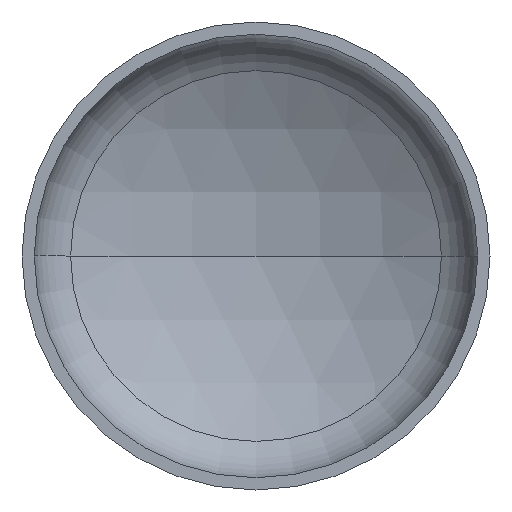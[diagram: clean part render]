
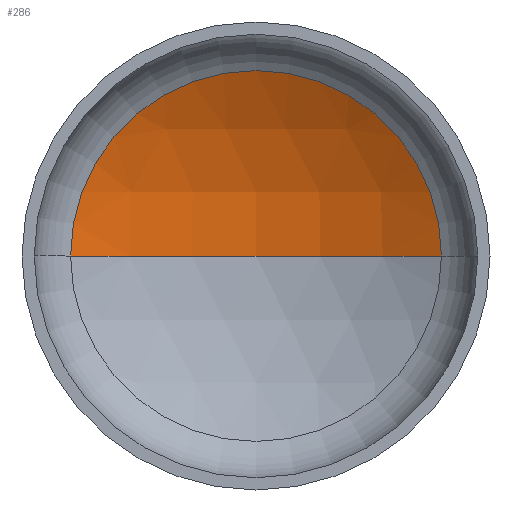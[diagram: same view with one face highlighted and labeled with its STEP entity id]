
A CAD part, front view. The second image highlights one B-rep face of the part: STEP entity #286.
In plain terms, the highlighted spherical face has radius 2080 mm.
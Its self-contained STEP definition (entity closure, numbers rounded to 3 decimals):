
#4 = VERTEX_POINT ( 'NONE', #274 ) ;
#6 = CARTESIAN_POINT ( 'NONE',  ( -1030.095, 467.503, 0. ) ) ;
#10 = EDGE_LOOP ( 'NONE', ( #53, #27, #40 ) ) ;
#13 = AXIS2_PLACEMENT_3D ( 'NONE', #131, #139, #110 ) ;
#21 = AXIS2_PLACEMENT_3D ( 'NONE', #195, #393, #114 ) ;
#27 = ORIENTED_EDGE ( 'NONE', *, *, #155, .T. ) ;
#40 = ORIENTED_EDGE ( 'NONE', *, *, #120, .T. ) ;
#49 = AXIS2_PLACEMENT_3D ( 'NONE', #210, #225, #220 ) ;
#50 = AXIS2_PLACEMENT_3D ( 'NONE', #203, #326, #180 ) ;
#53 = ORIENTED_EDGE ( 'NONE', *, *, #366, .F. ) ;
#104 = CIRCLE ( 'NONE', #13, 2080. ) ;
#110 = DIRECTION ( 'NONE',  ( 1., 0., 0. ) ) ;
#114 = DIRECTION ( 'NONE',  ( -1., 0., 0. ) ) ;
#120 = EDGE_CURVE ( 'NONE', #4, #148, #237, .T. ) ;
#131 = CARTESIAN_POINT ( 'NONE',  ( 0., -1339.512, 0. ) ) ;
#139 = DIRECTION ( 'NONE',  ( 0., 0., 1. ) ) ;
#143 = VERTEX_POINT ( 'NONE', #205 ) ;
#148 = VERTEX_POINT ( 'NONE', #6 ) ;
#155 = EDGE_CURVE ( 'NONE', #143, #4, #162, .T. ) ;
#162 = CIRCLE ( 'NONE', #49, 2080. ) ;
#180 = DIRECTION ( 'NONE',  ( 1., 0., 0. ) ) ;
#195 = CARTESIAN_POINT ( 'NONE',  ( 0., -1339.512, 0. ) ) ;
#203 = CARTESIAN_POINT ( 'NONE',  ( 0., 467.503, 0. ) ) ;
#205 = CARTESIAN_POINT ( 'NONE',  ( 0., 740.488, 0. ) ) ;
#210 = CARTESIAN_POINT ( 'NONE',  ( 0., -1339.512, 0. ) ) ;
#220 = DIRECTION ( 'NONE',  ( -1., 0., 0. ) ) ;
#225 = DIRECTION ( 'NONE',  ( 0., 0., -1. ) ) ;
#237 = CIRCLE ( 'NONE', #50, 1030.095 ) ;
#267 = FACE_OUTER_BOUND ( 'NONE', #10, .T. ) ;
#273 = SPHERICAL_SURFACE ( 'NONE', #21, 2080. ) ;
#274 = CARTESIAN_POINT ( 'NONE',  ( 1030.095, 467.503, 0. ) ) ;
#286 = ADVANCED_FACE ( 'NONE', ( #267 ), #273, .F. ) ;
#326 = DIRECTION ( 'NONE',  ( 0., -1., 0. ) ) ;
#366 = EDGE_CURVE ( 'NONE', #143, #148, #104, .T. ) ;
#393 = DIRECTION ( 'NONE',  ( 0., 0., -1. ) ) ;
